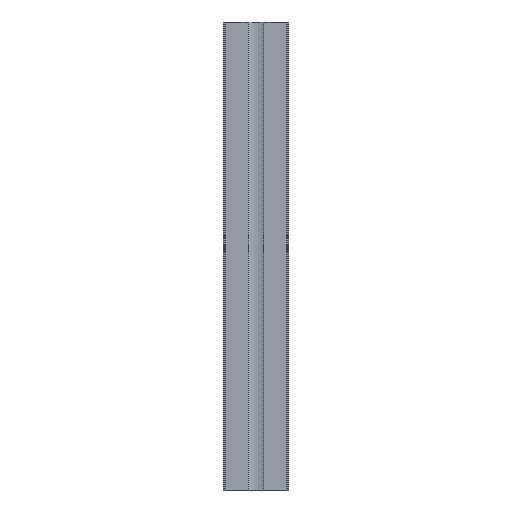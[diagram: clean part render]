
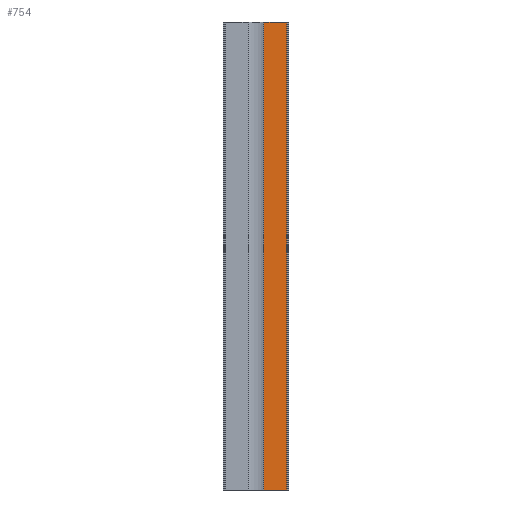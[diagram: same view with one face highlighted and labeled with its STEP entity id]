
A CAD part, front view. The second image highlights one B-rep face of the part: STEP entity #754.
In plain terms, the highlighted planar face has unit normal (0, -1, 0).
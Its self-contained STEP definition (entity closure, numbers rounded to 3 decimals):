
#56 = CARTESIAN_POINT ( 'NONE',  ( 98., 0., -750. ) ) ;
#87 = EDGE_CURVE ( 'NONE', #874, #292, #752, .T. ) ;
#104 = DIRECTION ( 'NONE',  ( -1., 0., 0. ) ) ;
#134 = DIRECTION ( 'NONE',  ( 0., 0., -1. ) ) ;
#138 = LINE ( 'NONE', #56, #150 ) ;
#143 = EDGE_CURVE ( 'NONE', #644, #605, #138, .T. ) ;
#150 = VECTOR ( 'NONE', #725, 1000. ) ;
#211 = CARTESIAN_POINT ( 'NONE',  ( 25., 0., 750. ) ) ;
#214 = ORIENTED_EDGE ( 'NONE', *, *, #241, .F. ) ;
#241 = EDGE_CURVE ( 'NONE', #874, #605, #648, .T. ) ;
#271 = FACE_OUTER_BOUND ( 'NONE', #698, .T. ) ;
#290 = ORIENTED_EDGE ( 'NONE', *, *, #355, .T. ) ;
#292 = VERTEX_POINT ( 'NONE', #542 ) ;
#301 = DIRECTION ( 'NONE',  ( 1., 0., 0. ) ) ;
#320 = PLANE ( 'NONE',  #383 ) ;
#321 = ORIENTED_EDGE ( 'NONE', *, *, #87, .T. ) ;
#355 = EDGE_CURVE ( 'NONE', #292, #644, #555, .T. ) ;
#377 = CARTESIAN_POINT ( 'NONE',  ( 98., 0., 750. ) ) ;
#383 = AXIS2_PLACEMENT_3D ( 'NONE', #387, #887, #104 ) ;
#387 = CARTESIAN_POINT ( 'NONE',  ( 25., 0., 750. ) ) ;
#530 = CARTESIAN_POINT ( 'NONE',  ( 98., 0., -750. ) ) ;
#542 = CARTESIAN_POINT ( 'NONE',  ( 25., 0., -750. ) ) ;
#555 = LINE ( 'NONE', #683, #746 ) ;
#587 = CARTESIAN_POINT ( 'NONE',  ( 25., 0., 750. ) ) ;
#592 = VECTOR ( 'NONE', #134, 1000. ) ;
#605 = VERTEX_POINT ( 'NONE', #377 ) ;
#644 = VERTEX_POINT ( 'NONE', #530 ) ;
#648 = LINE ( 'NONE', #668, #804 ) ;
#668 = CARTESIAN_POINT ( 'NONE',  ( 25., 0., 750. ) ) ;
#678 = DIRECTION ( 'NONE',  ( 1., 0., 0. ) ) ;
#683 = CARTESIAN_POINT ( 'NONE',  ( 25., 0., -750. ) ) ;
#698 = EDGE_LOOP ( 'NONE', ( #290, #718, #214, #321 ) ) ;
#718 = ORIENTED_EDGE ( 'NONE', *, *, #143, .T. ) ;
#725 = DIRECTION ( 'NONE',  ( 0., 0., 1. ) ) ;
#746 = VECTOR ( 'NONE', #301, 1000. ) ;
#752 = LINE ( 'NONE', #211, #592 ) ;
#754 = ADVANCED_FACE ( 'NONE', ( #271 ), #320, .F. ) ;
#804 = VECTOR ( 'NONE', #678, 1000. ) ;
#874 = VERTEX_POINT ( 'NONE', #587 ) ;
#887 = DIRECTION ( 'NONE',  ( 0., 1., 0. ) ) ;
